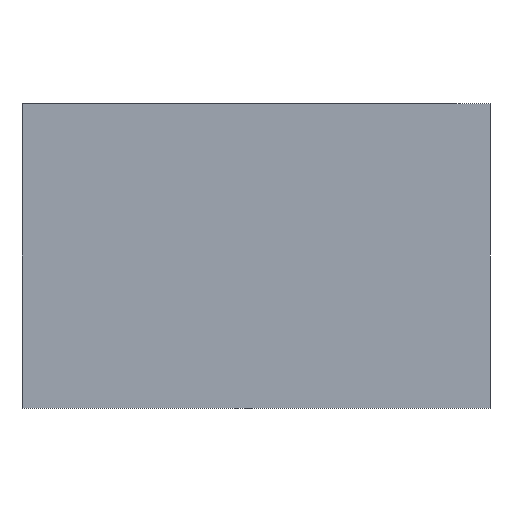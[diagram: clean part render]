
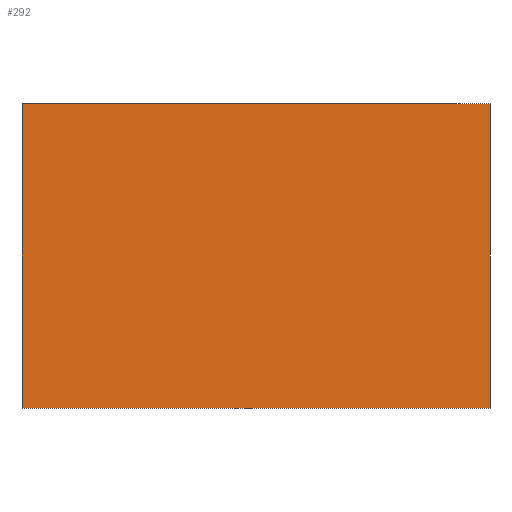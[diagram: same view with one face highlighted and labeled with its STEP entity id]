
A CAD part, left-side view. The second image highlights one B-rep face of the part: STEP entity #292.
In plain terms, the highlighted planar face has unit normal (-1, 0, 0).
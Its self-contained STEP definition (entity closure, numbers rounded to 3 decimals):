
#35=PLANE('',#330);
#52=FACE_OUTER_BOUND('',#70,.T.);
#70=EDGE_LOOP('',(#248,#249,#250,#251));
#94=LINE('',#872,#123);
#95=LINE('',#874,#124);
#96=LINE('',#876,#125);
#97=LINE('',#877,#126);
#123=VECTOR('',#393,10.);
#124=VECTOR('',#394,10.);
#125=VECTOR('',#395,10.);
#126=VECTOR('',#396,10.);
#155=VERTEX_POINT('',#870);
#156=VERTEX_POINT('',#871);
#157=VERTEX_POINT('',#873);
#158=VERTEX_POINT('',#875);
#190=EDGE_CURVE('',#155,#156,#94,.T.);
#191=EDGE_CURVE('',#155,#157,#95,.T.);
#192=EDGE_CURVE('',#158,#157,#96,.T.);
#193=EDGE_CURVE('',#156,#158,#97,.T.);
#248=ORIENTED_EDGE('',*,*,#190,.F.);
#249=ORIENTED_EDGE('',*,*,#191,.T.);
#250=ORIENTED_EDGE('',*,*,#192,.F.);
#251=ORIENTED_EDGE('',*,*,#193,.F.);
#292=ADVANCED_FACE('',(#52),#35,.T.);
#330=AXIS2_PLACEMENT_3D('',#869,#391,#392);
#391=DIRECTION('center_axis',(-1.,0.,0.));
#392=DIRECTION('ref_axis',(0.,-1.,0.));
#393=DIRECTION('',(0.,1.,0.));
#394=DIRECTION('',(0.,0.,1.));
#395=DIRECTION('',(0.,-1.,0.));
#396=DIRECTION('',(0.,0.,1.));
#869=CARTESIAN_POINT('Origin',(-40.,40.,0.));
#870=CARTESIAN_POINT('',(-40.,-40.,0.));
#871=CARTESIAN_POINT('',(-40.,40.,0.));
#872=CARTESIAN_POINT('',(-40.,-40.,0.));
#873=CARTESIAN_POINT('',(-40.,-40.,52.));
#874=CARTESIAN_POINT('',(-40.,-40.,0.));
#875=CARTESIAN_POINT('',(-40.,40.,52.));
#876=CARTESIAN_POINT('',(-40.,-40.,52.));
#877=CARTESIAN_POINT('',(-40.,40.,0.));
